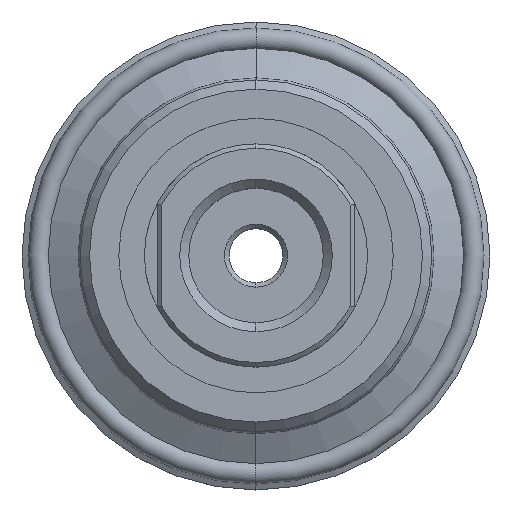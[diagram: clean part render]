
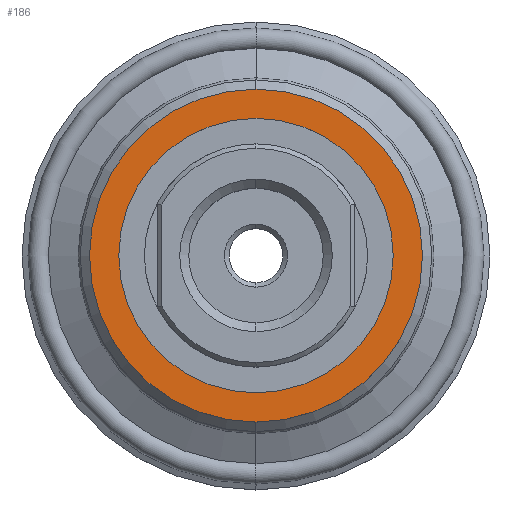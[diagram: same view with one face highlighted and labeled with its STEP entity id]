
A CAD part, top view. The second image highlights one B-rep face of the part: STEP entity #186.
In plain terms, the highlighted planar face has unit normal (0, 0, 1).
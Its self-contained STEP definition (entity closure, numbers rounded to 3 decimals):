
#186=ADVANCED_FACE('NONE',(#396,#397),#398,.F.);
#396=FACE_OUTER_BOUND('',#630,.T.);
#397=FACE_BOUND('',#631,.T.);
#398=PLANE('',#632);
#630=EDGE_LOOP('',(#1076,#1077));
#631=EDGE_LOOP('',(#1078,#1079));
#632=AXIS2_PLACEMENT_3D('',#1080,#1081,#1082);
#1076=ORIENTED_EDGE('',*,*,#1430,.F.);
#1077=ORIENTED_EDGE('',*,*,#1416,.F.);
#1078=ORIENTED_EDGE('',*,*,#1455,.F.);
#1079=ORIENTED_EDGE('',*,*,#1340,.F.);
#1080=CARTESIAN_POINT('',(18.0,0.,-9.8));
#1081=DIRECTION('',(0.,0.,-1.0));
#1082=DIRECTION('',(0.0,-1.0,0.));
#1340=EDGE_CURVE('NONE',#1577,#1579,#1580,.T.);
#1416=EDGE_CURVE('NONE',#1687,#1689,#1690,.T.);
#1430=EDGE_CURVE('NONE',#1689,#1687,#1708,.T.);
#1455=EDGE_CURVE('NONE',#1579,#1577,#1733,.T.);
#1577=VERTEX_POINT('NONE',#1889);
#1579=VERTEX_POINT('NONE',#1892);
#1580=CIRCLE('',#1893,15.25);
#1687=VERTEX_POINT('NONE',#2015);
#1689=VERTEX_POINT('NONE',#2018);
#1690=CIRCLE('',#2019,18.5);
#1708=CIRCLE('',#2040,18.5);
#1733=CIRCLE('',#2065,15.25);
#1889=CARTESIAN_POINT('',(0.,-15.25,-9.8));
#1892=CARTESIAN_POINT('',(0.,15.25,-9.8));
#1893=AXIS2_PLACEMENT_3D('',#2261,#2262,#2263);
#2015=CARTESIAN_POINT('',(0.,-18.5,-9.8));
#2018=CARTESIAN_POINT('',(0.,18.5,-9.8));
#2019=AXIS2_PLACEMENT_3D('',#2400,#2401,#2402);
#2040=AXIS2_PLACEMENT_3D('',#2424,#2425,#2426);
#2065=AXIS2_PLACEMENT_3D('',#2451,#2452,#2453);
#2261=CARTESIAN_POINT('',(0.,0.,-9.8));
#2262=DIRECTION('',(0.,0.,1.0));
#2263=DIRECTION('',(0.,1.0,0.0));
#2400=CARTESIAN_POINT('',(0.,0.,-9.8));
#2401=DIRECTION('',(0.,0.,-1.0));
#2402=DIRECTION('',(0.,-1.0,0.0));
#2424=CARTESIAN_POINT('',(0.,0.,-9.8));
#2425=DIRECTION('',(0.,0.,-1.0));
#2426=DIRECTION('',(0.,-1.0,0.0));
#2451=CARTESIAN_POINT('',(0.,0.,-9.8));
#2452=DIRECTION('',(0.,0.,1.0));
#2453=DIRECTION('',(0.,1.0,0.0));
